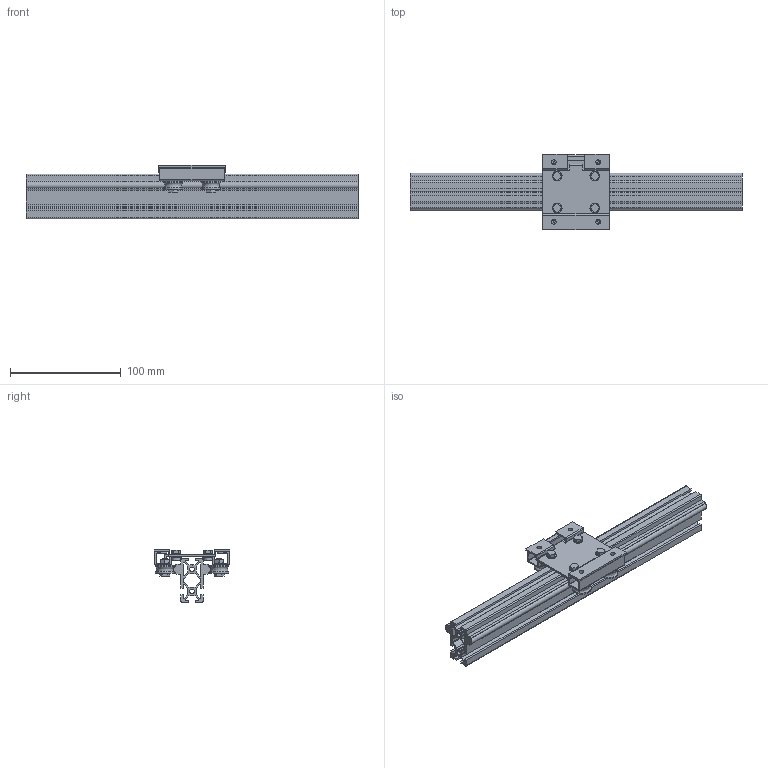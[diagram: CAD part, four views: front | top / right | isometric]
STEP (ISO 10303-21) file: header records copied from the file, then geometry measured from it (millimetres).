
FILE_DESCRIPTION((''),'2;1');
FILE_NAME('C:\Documents and Settings\土屋\My Documents\土屋移動用フォルダ\製品 (図面)\LSダウンロード用図面\新型キャリッジ\縦型LS\step形式\LS2040A.stp','2017-08-02T09:31:21',('y'),(''),'Autodesk Inventor 11','Autodesk Inventor 11','');
FILE_SCHEMA(('AUTOMOTIVE_DESIGN { 1 0 10303 214 1 1 1 1 }'));
Length unit declared in the file: millimetre
Products named in the file (3): LS2040A; LS2040Aレール; LS2040Aキャリッジ
Assembly tree (2 placements, depth 2):
  LS2040A
    LS2040Aレール
    LS2040Aキャリッジ
Bounding box: 300 x 68 x 48 mm (x, y, z)
Volume: 158412.8 mm3; surface area: 128269.6 mm2
Topology: 6 solids, 6 shells, 479 faces, 1216 edges, 774 vertices
Faces by surface type: plane 321, cylinder 86, cone 60, bspline 12
Full cylindrical faces by diameter (mm): 4.2 x2, 5 x4, 7.9 x4, 8.5 x8, 8.7 x8, 17 x8
Entity records: 14244 total; most frequent: CARTESIAN_POINT 3024, DIRECTION 2282, ORIENTED_EDGE 2276, EDGE_CURVE 1138, AXIS2_PLACEMENT_3D 768, VERTEX_POINT 754, VECTOR 746, LINE 746
